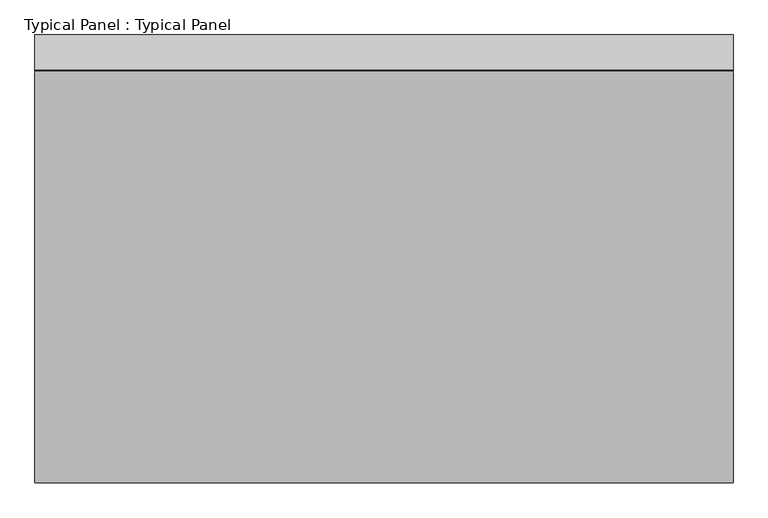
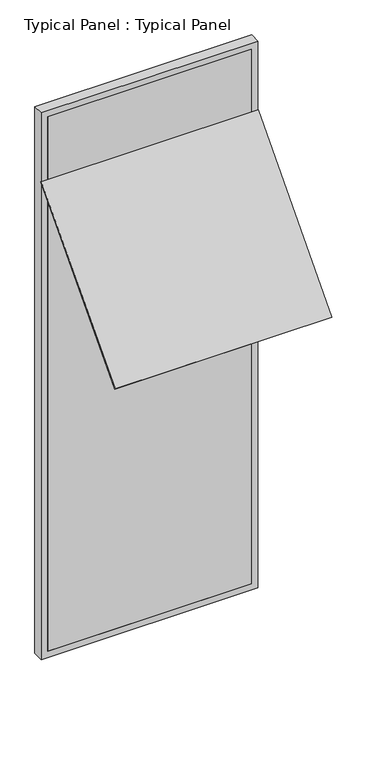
"""IFC4 building model written with IfcOpenShell, lengths in millimetres: plate geometry, Typical Panel : Typical Panel."""

from ifc_helpers import new_model, si_unit, frame, origin, place, context, project, spatial, polyline, outline, extrude, source, transform, mapped, element, save


def typical_panel_typical_panel_7269d920(model_context):
    return source(origin(), model_context, "Body", "SweptSolid", [
        extrude(outline(polyline([(0.0, -10.0000001), (0.0, 0.0), (1500.0, 0.0), (1500.0, -10.0000001), (0.0, -10.0000001)])), frame((750.0, -888.2524004, 2519.0488304), z_axis=(0.0, 0.6691306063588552, 0.7431448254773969), x_axis=(-1.0, 0.0, 0.0)), (0.0, 0.0, 1.0), 1320.0),
        extrude(outline(polyline([(0.0, -750.0), (0.0, 750.0), (4000.0, 750.0), (4000.0, -750.0), (0.0, -750.0)]), holes=[polyline([(45.0, 705.0), (45.0, -705.0), (3955.0, -705.0), (3955.0, 705.0), (45.0, 705.0)])]), frame((0.0, -1.5797986, 0.0), z_axis=(0.0, 1.0, 0.0), x_axis=(0.0, 0.0, 1.0)), (0.0, 0.0, 1.0), 75.0),
        extrude(outline(polyline([(705.0, -1.5797986), (-705.0, -1.5797986), (-705.0, 13.4202014), (705.0, 13.4202014), (705.0, -1.5797986)])), frame((0.0, 0.0, 45.0), z_axis=(0.0, 0.0, 1.0), x_axis=(1.0, 0.0, 0.0)), (0.0, 0.0, 1.0), 3910.0),
    ])


if __name__ == "__main__":
    model = new_model("IFC4")
    model_context = context("Model", 3, world=origin())
    ifc_project = project(units=[si_unit("LENGTHUNIT", "METRE", prefix="MILLI")], contexts=[model_context])
    site = spatial("IfcSite", under=ifc_project)
    building = spatial("IfcBuilding", under=site)
    placement = place(None, origin())
    typical_panel_typical_panel_shape = typical_panel_typical_panel_7269d920(model_context)
    element("IfcPlate", 1, ObjectType="Typical Panel : Typical Panel", at=placement, inside=building, context=model_context, shape_type="MappedRepresentation", body=[
        mapped(typical_panel_typical_panel_shape, transform((0.0, 0.0, 0.0), x_axis=(1.0, 0.0, 0.0), y_axis=(0.0, 1.0, 0.0), z_axis=(0.0, 0.0, 1.0))),
    ])
    save(model, "model.ifc")
